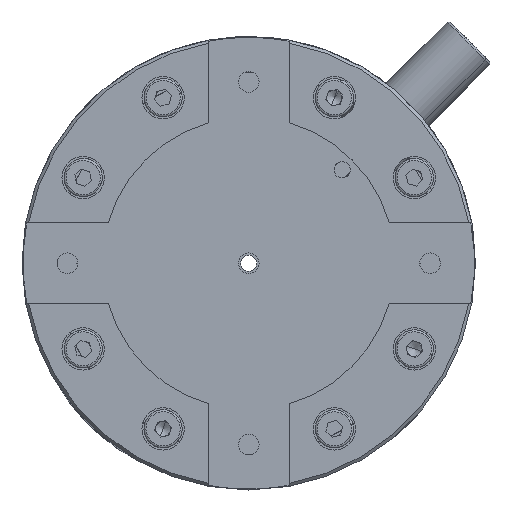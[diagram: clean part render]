
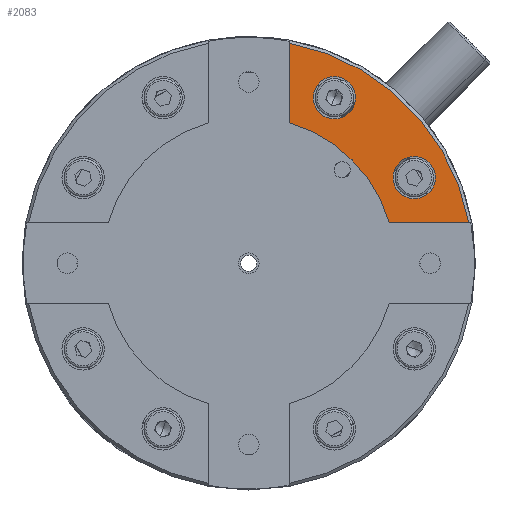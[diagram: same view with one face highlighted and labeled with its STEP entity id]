
A CAD part, front view. The second image highlights one B-rep face of the part: STEP entity #2083.
In plain terms, the highlighted planar face has unit normal (0, -1, 0).
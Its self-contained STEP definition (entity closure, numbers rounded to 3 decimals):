
#528 = CARTESIAN_POINT ( 'NONE',  ( 8.5, 0., 16.432 ) ) ;
#630 = ORIENTED_EDGE ( 'NONE', *, *, #27532, .F. ) ;
#798 = DIRECTION ( 'NONE',  ( 0., 0., 1. ) ) ;
#1390 = EDGE_CURVE ( 'NONE', #34663, #34388, #7929, .T. ) ;
#1401 = VERTEX_POINT ( 'NONE', #12965 ) ;
#1627 = ORIENTED_EDGE ( 'NONE', *, *, #33529, .F. ) ;
#1777 = AXIS2_PLACEMENT_3D ( 'NONE', #528, #9377, #20717 ) ;
#2083 = ADVANCED_FACE ( 'NONE', ( #11979, #8856, #2524 ), #36492, .F. ) ;
#2323 = CARTESIAN_POINT ( 'NONE',  ( 8.5, 0., 16.432 ) ) ;
#2524 = FACE_OUTER_BOUND ( 'NONE', #32280, .T. ) ;
#3192 = CIRCLE ( 'NONE', #18524, 2.1 ) ;
#3254 = CARTESIAN_POINT ( 'NONE',  ( 4., 0., 13.937 ) ) ;
#4290 = DIRECTION ( 'NONE',  ( 0., -1., 0. ) ) ;
#4609 = CARTESIAN_POINT ( 'NONE',  ( 0., 0., 0. ) ) ;
#4836 = CARTESIAN_POINT ( 'NONE',  ( 8.5, 0., 14.332 ) ) ;
#6183 = VECTOR ( 'NONE', #798, 1000. ) ;
#6600 = CIRCLE ( 'NONE', #36594, 2.1 ) ;
#7102 = VERTEX_POINT ( 'NONE', #11714 ) ;
#7147 = AXIS2_PLACEMENT_3D ( 'NONE', #17005, #13582, #22509 ) ;
#7162 = DIRECTION ( 'NONE',  ( 0., -1., 0. ) ) ;
#7195 = DIRECTION ( 'NONE',  ( 0., 0., -1. ) ) ;
#7233 = VERTEX_POINT ( 'NONE', #3254 ) ;
#7245 = DIRECTION ( 'NONE',  ( 0., 1., 0. ) ) ;
#7293 = CARTESIAN_POINT ( 'NONE',  ( 16.432, 0., 8.5 ) ) ;
#7929 = LINE ( 'NONE', #30126, #35881 ) ;
#8856 = FACE_BOUND ( 'NONE', #32799, .T. ) ;
#9377 = DIRECTION ( 'NONE',  ( 0., -1., 0. ) ) ;
#9853 = CARTESIAN_POINT ( 'NONE',  ( 0., 0., 0. ) ) ;
#10197 = DIRECTION ( 'NONE',  ( 0., 0., -1. ) ) ;
#10289 = DIRECTION ( 'NONE',  ( 0., 0., 1. ) ) ;
#10844 = DIRECTION ( 'NONE',  ( 0., 0., -1. ) ) ;
#11714 = CARTESIAN_POINT ( 'NONE',  ( 4., 0., 21.837 ) ) ;
#11979 = FACE_BOUND ( 'NONE', #12229, .T. ) ;
#12080 = CARTESIAN_POINT ( 'NONE',  ( 16.432, 0., 10.6 ) ) ;
#12229 = EDGE_LOOP ( 'NONE', ( #32594, #30759 ) ) ;
#12768 = EDGE_CURVE ( 'NONE', #32911, #1401, #29032, .T. ) ;
#12965 = CARTESIAN_POINT ( 'NONE',  ( 8.5, 0., 18.532 ) ) ;
#13582 = DIRECTION ( 'NONE',  ( 0., -1., 0. ) ) ;
#14113 = CARTESIAN_POINT ( 'NONE',  ( 16.432, 0., 8.5 ) ) ;
#15924 = ORIENTED_EDGE ( 'NONE', *, *, #21921, .T. ) ;
#16470 = DIRECTION ( 'NONE',  ( 0., 0., -1. ) ) ;
#16906 = DIRECTION ( 'NONE',  ( 0., -1., 0. ) ) ;
#17005 = CARTESIAN_POINT ( 'NONE',  ( 0., 0., 0. ) ) ;
#18524 = AXIS2_PLACEMENT_3D ( 'NONE', #7293, #7162, #10197 ) ;
#18846 = VERTEX_POINT ( 'NONE', #12080 ) ;
#19738 = LINE ( 'NONE', #35605, #6183 ) ;
#20717 = DIRECTION ( 'NONE',  ( 0., 0., -1. ) ) ;
#21742 = CIRCLE ( 'NONE', #7147, 22.2 ) ;
#21921 = EDGE_CURVE ( 'NONE', #34663, #7102, #21742, .T. ) ;
#21975 = DIRECTION ( 'NONE',  ( 0., -1., 0. ) ) ;
#22509 = DIRECTION ( 'NONE',  ( 0., 0., 1. ) ) ;
#23956 = EDGE_CURVE ( 'NONE', #18846, #26274, #3192, .T. ) ;
#26274 = VERTEX_POINT ( 'NONE', #35168 ) ;
#27204 = DIRECTION ( 'NONE',  ( -1., 0., 0. ) ) ;
#27532 = EDGE_CURVE ( 'NONE', #34388, #7233, #28822, .T. ) ;
#27612 = AXIS2_PLACEMENT_3D ( 'NONE', #2323, #21975, #16470 ) ;
#27932 = ORIENTED_EDGE ( 'NONE', *, *, #1390, .F. ) ;
#28822 = CIRCLE ( 'NONE', #29011, 14.5 ) ;
#29011 = AXIS2_PLACEMENT_3D ( 'NONE', #9853, #4290, #7195 ) ;
#29032 = CIRCLE ( 'NONE', #27612, 2.1 ) ;
#30126 = CARTESIAN_POINT ( 'NONE',  ( 25., 0., 4. ) ) ;
#30759 = ORIENTED_EDGE ( 'NONE', *, *, #36738, .F. ) ;
#32280 = EDGE_LOOP ( 'NONE', ( #1627, #630, #27932, #15924 ) ) ;
#32594 = ORIENTED_EDGE ( 'NONE', *, *, #12768, .F. ) ;
#32799 = EDGE_LOOP ( 'NONE', ( #33570, #37412 ) ) ;
#32911 = VERTEX_POINT ( 'NONE', #4836 ) ;
#32928 = CARTESIAN_POINT ( 'NONE',  ( 13.937, 0., 4. ) ) ;
#33529 = EDGE_CURVE ( 'NONE', #7233, #7102, #19738, .T. ) ;
#33570 = ORIENTED_EDGE ( 'NONE', *, *, #34486, .F. ) ;
#34388 = VERTEX_POINT ( 'NONE', #32928 ) ;
#34486 = EDGE_CURVE ( 'NONE', #26274, #18846, #6600, .T. ) ;
#34663 = VERTEX_POINT ( 'NONE', #34784 ) ;
#34784 = CARTESIAN_POINT ( 'NONE',  ( 21.837, 0., 4. ) ) ;
#34794 = AXIS2_PLACEMENT_3D ( 'NONE', #4609, #7245, #10289 ) ;
#35168 = CARTESIAN_POINT ( 'NONE',  ( 16.432, 0., 6.4 ) ) ;
#35605 = CARTESIAN_POINT ( 'NONE',  ( 4., 0., -25. ) ) ;
#35881 = VECTOR ( 'NONE', #27204, 1000. ) ;
#36326 = CIRCLE ( 'NONE', #1777, 2.1 ) ;
#36492 = PLANE ( 'NONE',  #34794 ) ;
#36594 = AXIS2_PLACEMENT_3D ( 'NONE', #14113, #16906, #10844 ) ;
#36738 = EDGE_CURVE ( 'NONE', #1401, #32911, #36326, .T. ) ;
#37412 = ORIENTED_EDGE ( 'NONE', *, *, #23956, .F. ) ;
